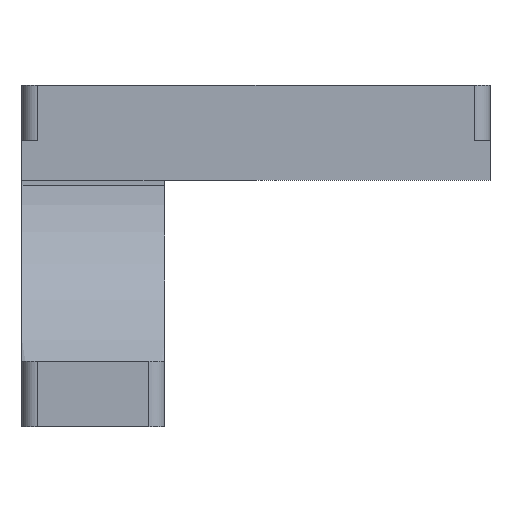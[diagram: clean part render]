
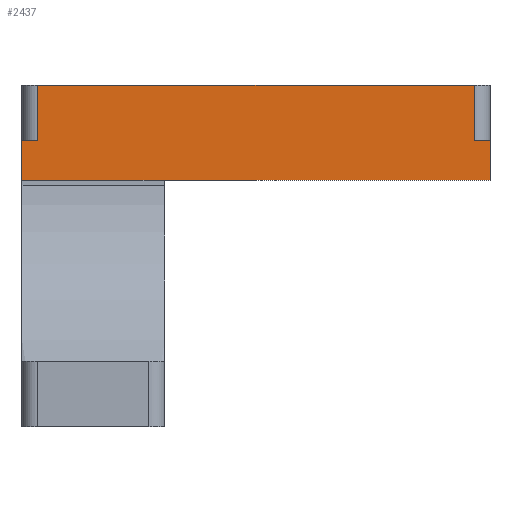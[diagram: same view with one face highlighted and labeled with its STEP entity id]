
A CAD part, front view. The second image highlights one B-rep face of the part: STEP entity #2437.
In plain terms, the highlighted planar face has unit normal (0, -1, 0).
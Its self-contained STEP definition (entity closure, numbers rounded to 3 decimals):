
#45 = PLANE('',#46);
#46 = AXIS2_PLACEMENT_3D('',#47,#48,#49);
#47 = CARTESIAN_POINT('',(-9.,0.,0.));
#48 = DIRECTION('',(1.,0.,0.));
#49 = DIRECTION('',(-0.,0.,1.));
#577 = PLANE('',#578);
#578 = AXIS2_PLACEMENT_3D('',#579,#580,#581);
#579 = CARTESIAN_POINT('',(-9.,-13.,43.8));
#580 = DIRECTION('',(0.,0.,1.));
#581 = DIRECTION('',(1.,0.,0.));
#605 = CYLINDRICAL_SURFACE('',#606,2.);
#606 = AXIS2_PLACEMENT_3D('',#607,#608,#609);
#607 = CARTESIAN_POINT('',(-7.,-16.,35.8));
#608 = DIRECTION('',(0.,0.,1.));
#609 = DIRECTION('',(-1.,-0.,0.));
#618 = VERTEX_POINT('',#619);
#619 = CARTESIAN_POINT('',(-9.,-18.,36.8));
#633 = PLANE('',#634);
#634 = AXIS2_PLACEMENT_3D('',#635,#636,#637);
#635 = CARTESIAN_POINT('',(-9.,-18.,36.8));
#636 = DIRECTION('',(0.,0.,1.));
#637 = DIRECTION('',(1.,0.,0.));
#645 = EDGE_CURVE('',#646,#618,#648,.T.);
#646 = VERTEX_POINT('',#647);
#647 = CARTESIAN_POINT('',(-9.,-18.,31.8));
#648 = SURFACE_CURVE('',#649,(#653,#660),.PCURVE_S1.);
#649 = LINE('',#650,#651);
#650 = CARTESIAN_POINT('',(-9.,-18.,31.8));
#651 = VECTOR('',#652,1.);
#652 = DIRECTION('',(0.,0.,1.));
#653 = PCURVE('',#45,#654);
#654 = DEFINITIONAL_REPRESENTATION('',(#655),#659);
#655 = LINE('',#656,#657);
#656 = CARTESIAN_POINT('',(31.8,18.));
#657 = VECTOR('',#658,1.);
#658 = DIRECTION('',(1.,0.));
#659 = ( GEOMETRIC_REPRESENTATION_CONTEXT(2) 
PARAMETRIC_REPRESENTATION_CONTEXT() REPRESENTATION_CONTEXT('2D SPACE',''
  ) );
#660 = PCURVE('',#661,#666);
#661 = PLANE('',#662);
#662 = AXIS2_PLACEMENT_3D('',#663,#664,#665);
#663 = CARTESIAN_POINT('',(-9.,-18.,35.8));
#664 = DIRECTION('',(0.,1.,0.));
#665 = DIRECTION('',(0.,0.,1.));
#666 = DEFINITIONAL_REPRESENTATION('',(#667),#671);
#667 = LINE('',#668,#669);
#668 = CARTESIAN_POINT('',(-4.,0.));
#669 = VECTOR('',#670,1.);
#670 = DIRECTION('',(1.,0.));
#671 = ( GEOMETRIC_REPRESENTATION_CONTEXT(2) 
PARAMETRIC_REPRESENTATION_CONTEXT() REPRESENTATION_CONTEXT('2D SPACE',''
  ) );
#689 = PLANE('',#690);
#690 = AXIS2_PLACEMENT_3D('',#691,#692,#693);
#691 = CARTESIAN_POINT('',(-9.,-18.,31.8));
#692 = DIRECTION('',(0.,0.,1.));
#693 = DIRECTION('',(1.,0.,0.));
#1610 = PLANE('',#1611);
#1611 = AXIS2_PLACEMENT_3D('',#1612,#1613,#1614);
#1612 = CARTESIAN_POINT('',(50.,-18.,35.8));
#1613 = DIRECTION('',(1.,0.,0.));
#1614 = DIRECTION('',(0.,0.,1.));
#2116 = VERTEX_POINT('',#2117);
#2117 = CARTESIAN_POINT('',(-7.,-18.,43.8));
#2139 = EDGE_CURVE('',#2116,#2140,#2142,.T.);
#2140 = VERTEX_POINT('',#2141);
#2141 = CARTESIAN_POINT('',(48.,-18.,43.8));
#2142 = SURFACE_CURVE('',#2143,(#2147,#2154),.PCURVE_S1.);
#2143 = LINE('',#2144,#2145);
#2144 = CARTESIAN_POINT('',(-9.,-18.,43.8));
#2145 = VECTOR('',#2146,1.);
#2146 = DIRECTION('',(1.,0.,0.));
#2147 = PCURVE('',#577,#2148);
#2148 = DEFINITIONAL_REPRESENTATION('',(#2149),#2153);
#2149 = LINE('',#2150,#2151);
#2150 = CARTESIAN_POINT('',(0.,-5.));
#2151 = VECTOR('',#2152,1.);
#2152 = DIRECTION('',(1.,0.));
#2153 = ( GEOMETRIC_REPRESENTATION_CONTEXT(2) 
PARAMETRIC_REPRESENTATION_CONTEXT() REPRESENTATION_CONTEXT('2D SPACE',''
  ) );
#2154 = PCURVE('',#661,#2155);
#2155 = DEFINITIONAL_REPRESENTATION('',(#2156),#2160);
#2156 = LINE('',#2157,#2158);
#2157 = CARTESIAN_POINT('',(8.,0.));
#2158 = VECTOR('',#2159,1.);
#2159 = DIRECTION('',(0.,1.));
#2160 = ( GEOMETRIC_REPRESENTATION_CONTEXT(2) 
PARAMETRIC_REPRESENTATION_CONTEXT() REPRESENTATION_CONTEXT('2D SPACE',''
  ) );
#2183 = CYLINDRICAL_SURFACE('',#2184,2.);
#2184 = AXIS2_PLACEMENT_3D('',#2185,#2186,#2187);
#2185 = CARTESIAN_POINT('',(48.,-16.,35.8));
#2186 = DIRECTION('',(0.,0.,1.));
#2187 = DIRECTION('',(1.,0.,-0.));
#2367 = VERTEX_POINT('',#2368);
#2368 = CARTESIAN_POINT('',(-7.,-18.,36.8));
#2390 = EDGE_CURVE('',#2367,#2116,#2391,.T.);
#2391 = SURFACE_CURVE('',#2392,(#2396,#2403),.PCURVE_S1.);
#2392 = LINE('',#2393,#2394);
#2393 = CARTESIAN_POINT('',(-7.,-18.,35.8));
#2394 = VECTOR('',#2395,1.);
#2395 = DIRECTION('',(0.,0.,1.));
#2396 = PCURVE('',#605,#2397);
#2397 = DEFINITIONAL_REPRESENTATION('',(#2398),#2402);
#2398 = LINE('',#2399,#2400);
#2399 = CARTESIAN_POINT('',(1.571,0.));
#2400 = VECTOR('',#2401,1.);
#2401 = DIRECTION('',(0.,1.));
#2402 = ( GEOMETRIC_REPRESENTATION_CONTEXT(2) 
PARAMETRIC_REPRESENTATION_CONTEXT() REPRESENTATION_CONTEXT('2D SPACE',''
  ) );
#2403 = PCURVE('',#661,#2404);
#2404 = DEFINITIONAL_REPRESENTATION('',(#2405),#2409);
#2405 = LINE('',#2406,#2407);
#2406 = CARTESIAN_POINT('',(0.,2.));
#2407 = VECTOR('',#2408,1.);
#2408 = DIRECTION('',(1.,0.));
#2409 = ( GEOMETRIC_REPRESENTATION_CONTEXT(2) 
PARAMETRIC_REPRESENTATION_CONTEXT() REPRESENTATION_CONTEXT('2D SPACE',''
  ) );
#2416 = EDGE_CURVE('',#618,#2367,#2417,.T.);
#2417 = SURFACE_CURVE('',#2418,(#2422,#2429),.PCURVE_S1.);
#2418 = LINE('',#2419,#2420);
#2419 = CARTESIAN_POINT('',(-9.,-18.,36.8));
#2420 = VECTOR('',#2421,1.);
#2421 = DIRECTION('',(1.,0.,0.));
#2422 = PCURVE('',#633,#2423);
#2423 = DEFINITIONAL_REPRESENTATION('',(#2424),#2428);
#2424 = LINE('',#2425,#2426);
#2425 = CARTESIAN_POINT('',(0.,0.));
#2426 = VECTOR('',#2427,1.);
#2427 = DIRECTION('',(1.,0.));
#2428 = ( GEOMETRIC_REPRESENTATION_CONTEXT(2) 
PARAMETRIC_REPRESENTATION_CONTEXT() REPRESENTATION_CONTEXT('2D SPACE',''
  ) );
#2429 = PCURVE('',#661,#2430);
#2430 = DEFINITIONAL_REPRESENTATION('',(#2431),#2435);
#2431 = LINE('',#2432,#2433);
#2432 = CARTESIAN_POINT('',(1.,0.));
#2433 = VECTOR('',#2434,1.);
#2434 = DIRECTION('',(0.,1.));
#2435 = ( GEOMETRIC_REPRESENTATION_CONTEXT(2) 
PARAMETRIC_REPRESENTATION_CONTEXT() REPRESENTATION_CONTEXT('2D SPACE',''
  ) );
#2437 = ADVANCED_FACE('',(#2438),#661,.F.);
#2438 = FACE_BOUND('',#2439,.F.);
#2439 = EDGE_LOOP('',(#2440,#2463,#2491,#2514,#2535,#2536,#2537,#2538));
#2440 = ORIENTED_EDGE('',*,*,#2441,.F.);
#2441 = EDGE_CURVE('',#2442,#2140,#2444,.T.);
#2442 = VERTEX_POINT('',#2443);
#2443 = CARTESIAN_POINT('',(48.,-18.,36.8));
#2444 = SURFACE_CURVE('',#2445,(#2449,#2456),.PCURVE_S1.);
#2445 = LINE('',#2446,#2447);
#2446 = CARTESIAN_POINT('',(48.,-18.,35.8));
#2447 = VECTOR('',#2448,1.);
#2448 = DIRECTION('',(0.,0.,1.));
#2449 = PCURVE('',#661,#2450);
#2450 = DEFINITIONAL_REPRESENTATION('',(#2451),#2455);
#2451 = LINE('',#2452,#2453);
#2452 = CARTESIAN_POINT('',(0.,57.));
#2453 = VECTOR('',#2454,1.);
#2454 = DIRECTION('',(1.,0.));
#2455 = ( GEOMETRIC_REPRESENTATION_CONTEXT(2) 
PARAMETRIC_REPRESENTATION_CONTEXT() REPRESENTATION_CONTEXT('2D SPACE',''
  ) );
#2456 = PCURVE('',#2183,#2457);
#2457 = DEFINITIONAL_REPRESENTATION('',(#2458),#2462);
#2458 = LINE('',#2459,#2460);
#2459 = CARTESIAN_POINT('',(-1.571,0.));
#2460 = VECTOR('',#2461,1.);
#2461 = DIRECTION('',(-0.,1.));
#2462 = ( GEOMETRIC_REPRESENTATION_CONTEXT(2) 
PARAMETRIC_REPRESENTATION_CONTEXT() REPRESENTATION_CONTEXT('2D SPACE',''
  ) );
#2463 = ORIENTED_EDGE('',*,*,#2464,.T.);
#2464 = EDGE_CURVE('',#2442,#2465,#2467,.T.);
#2465 = VERTEX_POINT('',#2466);
#2466 = CARTESIAN_POINT('',(50.,-18.,36.8));
#2467 = SURFACE_CURVE('',#2468,(#2472,#2479),.PCURVE_S1.);
#2468 = LINE('',#2469,#2470);
#2469 = CARTESIAN_POINT('',(-9.,-18.,36.8));
#2470 = VECTOR('',#2471,1.);
#2471 = DIRECTION('',(1.,0.,0.));
#2472 = PCURVE('',#661,#2473);
#2473 = DEFINITIONAL_REPRESENTATION('',(#2474),#2478);
#2474 = LINE('',#2475,#2476);
#2475 = CARTESIAN_POINT('',(1.,0.));
#2476 = VECTOR('',#2477,1.);
#2477 = DIRECTION('',(0.,1.));
#2478 = ( GEOMETRIC_REPRESENTATION_CONTEXT(2) 
PARAMETRIC_REPRESENTATION_CONTEXT() REPRESENTATION_CONTEXT('2D SPACE',''
  ) );
#2479 = PCURVE('',#2480,#2485);
#2480 = PLANE('',#2481);
#2481 = AXIS2_PLACEMENT_3D('',#2482,#2483,#2484);
#2482 = CARTESIAN_POINT('',(-9.,-18.,36.8));
#2483 = DIRECTION('',(0.,0.,1.));
#2484 = DIRECTION('',(1.,0.,0.));
#2485 = DEFINITIONAL_REPRESENTATION('',(#2486),#2490);
#2486 = LINE('',#2487,#2488);
#2487 = CARTESIAN_POINT('',(0.,0.));
#2488 = VECTOR('',#2489,1.);
#2489 = DIRECTION('',(1.,0.));
#2490 = ( GEOMETRIC_REPRESENTATION_CONTEXT(2) 
PARAMETRIC_REPRESENTATION_CONTEXT() REPRESENTATION_CONTEXT('2D SPACE',''
  ) );
#2491 = ORIENTED_EDGE('',*,*,#2492,.F.);
#2492 = EDGE_CURVE('',#2493,#2465,#2495,.T.);
#2493 = VERTEX_POINT('',#2494);
#2494 = CARTESIAN_POINT('',(50.,-18.,31.8));
#2495 = SURFACE_CURVE('',#2496,(#2500,#2507),.PCURVE_S1.);
#2496 = LINE('',#2497,#2498);
#2497 = CARTESIAN_POINT('',(50.,-18.,31.8));
#2498 = VECTOR('',#2499,1.);
#2499 = DIRECTION('',(0.,0.,1.));
#2500 = PCURVE('',#661,#2501);
#2501 = DEFINITIONAL_REPRESENTATION('',(#2502),#2506);
#2502 = LINE('',#2503,#2504);
#2503 = CARTESIAN_POINT('',(-4.,59.));
#2504 = VECTOR('',#2505,1.);
#2505 = DIRECTION('',(1.,0.));
#2506 = ( GEOMETRIC_REPRESENTATION_CONTEXT(2) 
PARAMETRIC_REPRESENTATION_CONTEXT() REPRESENTATION_CONTEXT('2D SPACE',''
  ) );
#2507 = PCURVE('',#1610,#2508);
#2508 = DEFINITIONAL_REPRESENTATION('',(#2509),#2513);
#2509 = LINE('',#2510,#2511);
#2510 = CARTESIAN_POINT('',(-4.,0.));
#2511 = VECTOR('',#2512,1.);
#2512 = DIRECTION('',(1.,0.));
#2513 = ( GEOMETRIC_REPRESENTATION_CONTEXT(2) 
PARAMETRIC_REPRESENTATION_CONTEXT() REPRESENTATION_CONTEXT('2D SPACE',''
  ) );
#2514 = ORIENTED_EDGE('',*,*,#2515,.F.);
#2515 = EDGE_CURVE('',#646,#2493,#2516,.T.);
#2516 = SURFACE_CURVE('',#2517,(#2521,#2528),.PCURVE_S1.);
#2517 = LINE('',#2518,#2519);
#2518 = CARTESIAN_POINT('',(-9.,-18.,31.8));
#2519 = VECTOR('',#2520,1.);
#2520 = DIRECTION('',(1.,0.,0.));
#2521 = PCURVE('',#661,#2522);
#2522 = DEFINITIONAL_REPRESENTATION('',(#2523),#2527);
#2523 = LINE('',#2524,#2525);
#2524 = CARTESIAN_POINT('',(-4.,0.));
#2525 = VECTOR('',#2526,1.);
#2526 = DIRECTION('',(0.,1.));
#2527 = ( GEOMETRIC_REPRESENTATION_CONTEXT(2) 
PARAMETRIC_REPRESENTATION_CONTEXT() REPRESENTATION_CONTEXT('2D SPACE',''
  ) );
#2528 = PCURVE('',#689,#2529);
#2529 = DEFINITIONAL_REPRESENTATION('',(#2530),#2534);
#2530 = LINE('',#2531,#2532);
#2531 = CARTESIAN_POINT('',(0.,0.));
#2532 = VECTOR('',#2533,1.);
#2533 = DIRECTION('',(1.,0.));
#2534 = ( GEOMETRIC_REPRESENTATION_CONTEXT(2) 
PARAMETRIC_REPRESENTATION_CONTEXT() REPRESENTATION_CONTEXT('2D SPACE',''
  ) );
#2535 = ORIENTED_EDGE('',*,*,#645,.T.);
#2536 = ORIENTED_EDGE('',*,*,#2416,.T.);
#2537 = ORIENTED_EDGE('',*,*,#2390,.T.);
#2538 = ORIENTED_EDGE('',*,*,#2139,.T.);
